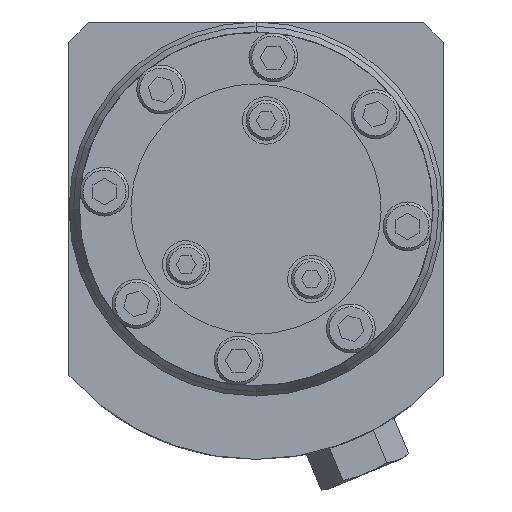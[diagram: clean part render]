
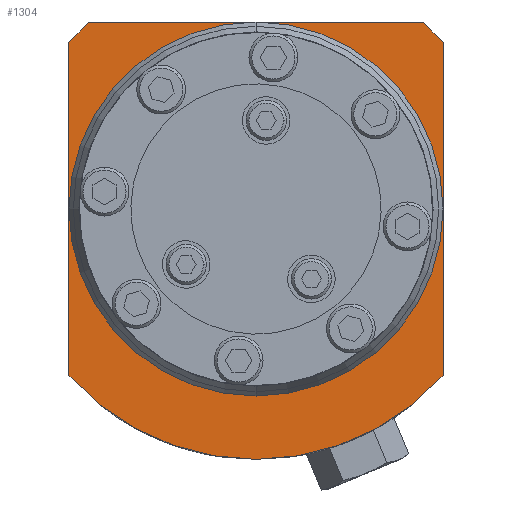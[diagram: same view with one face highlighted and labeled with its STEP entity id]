
A CAD part, front view. The second image highlights one B-rep face of the part: STEP entity #1304.
In plain terms, the highlighted planar face has unit normal (0, -1, 0).
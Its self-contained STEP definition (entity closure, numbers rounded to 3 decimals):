
#1=DIRECTION('',(0.,0.,1.));
#2=VECTOR('',#1,57.827);
#3=CARTESIAN_POINT('',(-32.5,0.,-28.914));
#4=LINE('',#3,#2);
#5=CARTESIAN_POINT('',(0.,0.,0.));
#6=DIRECTION('',(0.,1.,0.));
#7=DIRECTION('',(-0.747,0.,0.665));
#8=AXIS2_PLACEMENT_3D('',#5,#6,#7);
#10=DIRECTION('',(1.,0.,0.));
#11=VECTOR('',#10,57.827);
#12=CARTESIAN_POINT('',(-28.914,0.,32.5));
#13=LINE('',#12,#11);
#14=CARTESIAN_POINT('',(0.,0.,0.));
#15=DIRECTION('',(0.,1.,0.));
#16=DIRECTION('',(0.665,0.,0.747));
#17=AXIS2_PLACEMENT_3D('',#14,#15,#16);
#19=DIRECTION('',(0.,0.,-1.));
#20=VECTOR('',#19,57.827);
#21=CARTESIAN_POINT('',(32.5,0.,28.914));
#22=LINE('',#21,#20);
#23=CARTESIAN_POINT('',(0.,0.,0.));
#24=DIRECTION('',(0.,1.,0.));
#25=DIRECTION('',(0.747,0.,-0.665));
#26=AXIS2_PLACEMENT_3D('',#23,#24,#25);
#28=CARTESIAN_POINT('',(0.,0.,0.));
#29=DIRECTION('',(0.,-1.,0.));
#30=DIRECTION('',(0.,0.,1.));
#31=AXIS2_PLACEMENT_3D('',#28,#29,#30);
#33=CARTESIAN_POINT('',(0.,0.,0.));
#34=DIRECTION('',(0.,-1.,0.));
#35=DIRECTION('',(0.,0.,-1.));
#36=AXIS2_PLACEMENT_3D('',#33,#34,#35);
#1034=CARTESIAN_POINT('',(-32.5,0.,-28.914));
#1035=CARTESIAN_POINT('',(-32.5,0.,28.914));
#1036=VERTEX_POINT('',#1034);
#1037=VERTEX_POINT('',#1035);
#1038=CARTESIAN_POINT('',(-28.914,0.,32.5));
#1039=VERTEX_POINT('',#1038);
#1040=CARTESIAN_POINT('',(28.914,0.,32.5));
#1041=VERTEX_POINT('',#1040);
#1042=CARTESIAN_POINT('',(32.5,0.,28.914));
#1043=VERTEX_POINT('',#1042);
#1044=CARTESIAN_POINT('',(32.5,0.,-28.914));
#1045=VERTEX_POINT('',#1044);
#1085=CARTESIAN_POINT('',(0.,0.,31.5));
#1086=CARTESIAN_POINT('',(0.,0.,-31.5));
#1087=VERTEX_POINT('',#1085);
#1088=VERTEX_POINT('',#1086);
#1279=CARTESIAN_POINT('',(0.,0.,0.));
#1280=DIRECTION('',(0.,1.,0.));
#1281=DIRECTION('',(1.,0.,0.));
#1282=AXIS2_PLACEMENT_3D('',#1279,#1280,#1281);
#1283=PLANE('',#1282);
#1285=ORIENTED_EDGE('',*,*,#1284,.T.);
#1287=ORIENTED_EDGE('',*,*,#1286,.T.);
#1289=ORIENTED_EDGE('',*,*,#1288,.T.);
#1291=ORIENTED_EDGE('',*,*,#1290,.T.);
#1293=ORIENTED_EDGE('',*,*,#1292,.T.);
#1295=ORIENTED_EDGE('',*,*,#1294,.T.);
#1296=EDGE_LOOP('',(#1285,#1287,#1289,#1291,#1293,#1295));
#1297=FACE_OUTER_BOUND('',#1296,.F.);
#1299=ORIENTED_EDGE('',*,*,#1298,.T.);
#1301=ORIENTED_EDGE('',*,*,#1300,.T.);
#1302=EDGE_LOOP('',(#1299,#1301));
#1303=FACE_BOUND('',#1302,.F.);
#1304=ADVANCED_FACE('',(#1297,#1303),#1283,.F.);
#9=CIRCLE('',#8,43.5);
#18=CIRCLE('',#17,43.5);
#27=CIRCLE('',#26,43.5);
#32=CIRCLE('',#31,31.5);
#37=CIRCLE('',#36,31.5);
#1284=EDGE_CURVE('',#1036,#1037,#4,.T.);
#1286=EDGE_CURVE('',#1037,#1039,#9,.T.);
#1288=EDGE_CURVE('',#1039,#1041,#13,.T.);
#1290=EDGE_CURVE('',#1041,#1043,#18,.T.);
#1292=EDGE_CURVE('',#1043,#1045,#22,.T.);
#1294=EDGE_CURVE('',#1045,#1036,#27,.T.);
#1298=EDGE_CURVE('',#1087,#1088,#32,.T.);
#1300=EDGE_CURVE('',#1088,#1087,#37,.T.);
